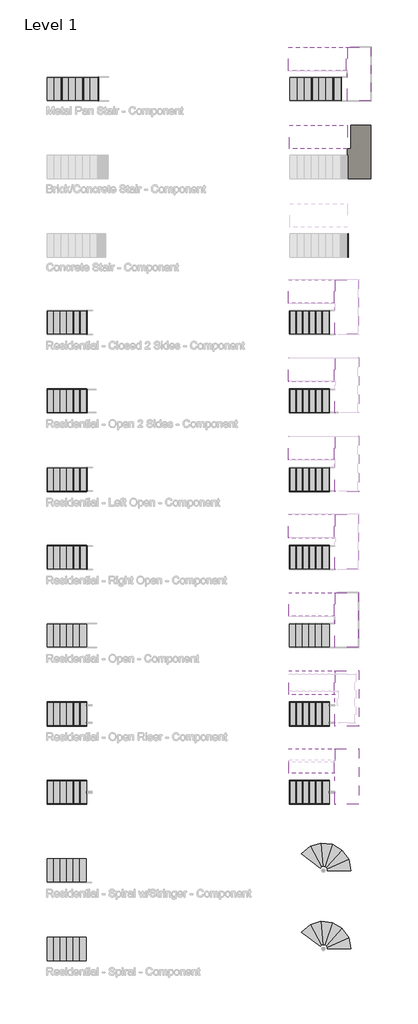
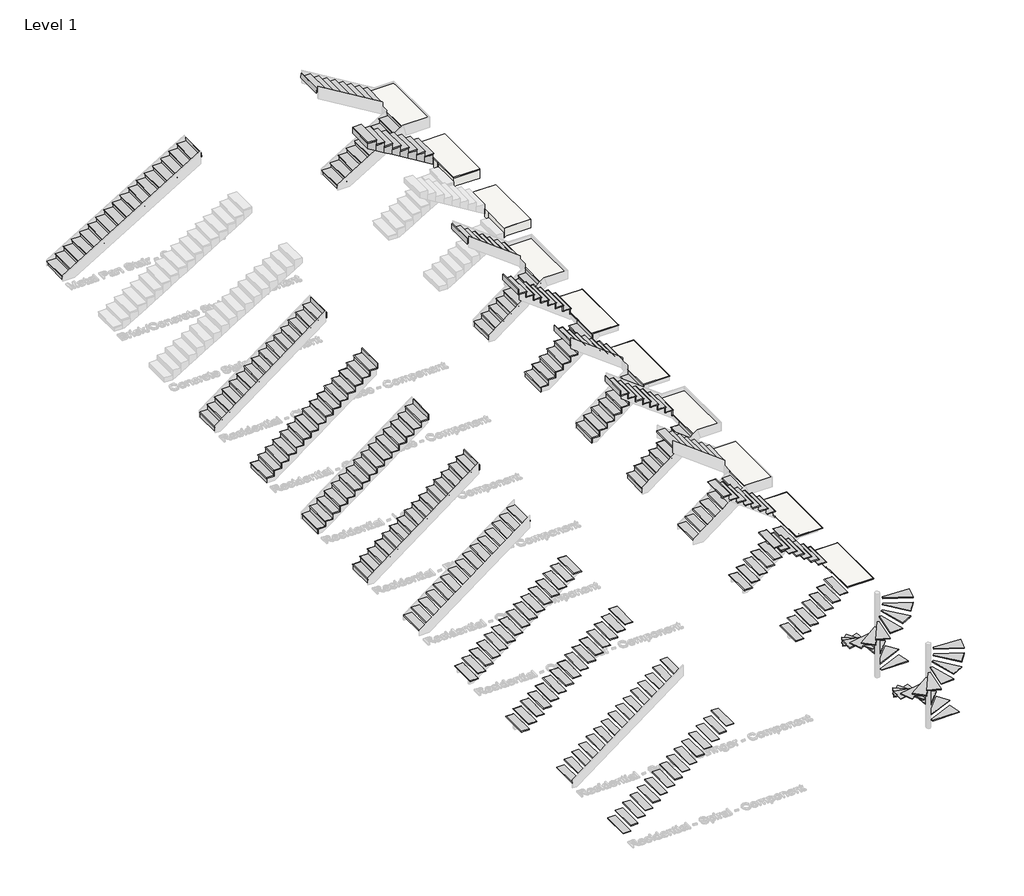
# One storey, part 2 of 15: 29 stair flights, 10 slabs.
"""IFC4 building model written with IfcOpenShell, lengths in millimetres."""

from ifc_helpers import new_model, si_unit, frame, origin, place, context, project, spatial, polyline, outline, extrude, faceted_brep, transform, mapped, element, save
from components import non_monolithic_landing_91d3ffc2, non_monolithic_landing_57681d34, non_monolithic_landing_c2a4e878, non_monolithic_landing_5f024aca, non_monolithic_landing_b907bb08, non_monolithic_landing_c05d15c3, non_monolithic_landing_861eff42, non_monolithic_landing_834f4fe1, stair_flight_dfa91324, stair_flight_35474383, stair_flight_a5da1dd9, stair_flight_ea4a27bd, stair_flight_c2164267, stair_flight_34373fae, stair_flight_3790ce72, stair_flight_e1e404fc, stair_flight_be95155a, stair_flight_f94ab1f9, stair_flight_34b82d96, stair_flight_1cd0306f, stair_flight_2b1a7fe8, stair_flight_ce8c0683, stair_flight_56650358, stair_flight_bbbf5137, stair_flight_2204dae2, stair_flight_d816db76, stair_flight_3500c2e6, stair_flight_d1c61a72, stair_flight_c486b3ba, stair_flight_c9529e75, stair_flight_d73f07cf, stair_flight_a4a1ad23, stair_flight_c29993e0, stair_flight_36799c1e, stair_flight_c3952520, stair_flight_bf0e3606

model = new_model("IFC4")

# Units and contexts
model_context = context("Model", 3, world=origin())
ifc_project = project(units=[si_unit("LENGTHUNIT", "METRE", prefix="MILLI")], contexts=[model_context])

# Site, building, storey
site = spatial("IfcSite", under=ifc_project)
building = spatial("IfcBuilding", under=site)
storey = spatial("IfcBuildingStorey", under=building, Name="Level 1", Elevation=0.0)

# Slabs
placement = place(None, origin())
element("IfcSlab", 1, ObjectType="11 29/32\" Thickness", at=placement, inside=storey, context=model_context, shape_type="SolidModel", body=[
    faceted_brep([(-15521.4481446, 10924.7635042, 1523.20625), (-15521.4481446, 10010.3635042, 1523.20625), (-15446.975887, 10010.3635042, 1523.20625), (-14607.0481446, 10010.3635042, 1523.20625), (-14607.0481446, 12093.1635042, 1523.20625), (-15316.5204022, 12093.1635042, 1523.20625), (-15521.4481446, 12093.1635042, 1523.20625), (-15521.4481446, 11178.7635042, 1523.20625), (-15521.4481446, 10924.7635042, 1220.8032375), (-15521.4481446, 10924.7635042, 1175.6685359), (-15521.4481446, 10010.3635042, 1175.6685359), (-15521.4481446, 10010.3635042, 1353.8729167), (-15446.975887, 10010.3635042, 1220.8032375), (-14607.0481446, 10010.3635042, 1220.8032375), (-14607.0481446, 12093.1635042, 1220.8032375), (-15316.5204022, 12093.1635042, 1220.8032375), (-15521.4481446, 12093.1635042, 1345.0018692), (-15521.4481446, 11178.7635042, 1345.0018692), (-15521.4481446, 11178.7635042, 1220.8032375), (-15316.5204022, 11178.7635042, 1220.8032375), (-15446.975887, 10924.7635042, 1220.8032375)], [[[0, 1, 2, 3, 4, 5, 6, 7]], [[1, 0, 8, 9, 10, 11]], [[1, 11, 10, 12, 13, 3, 2]], [[4, 3, 13, 14]], [[4, 14, 15, 16, 6, 5]], [[7, 6, 16, 17]], [[0, 7, 17, 18, 8]], [[18, 19, 15, 14, 13, 12, 20, 8]], [[19, 18, 17]], [[20, 12, 10, 9]], [[8, 20, 9]], [[15, 19, 17, 16]]]),
    extrude(outline(polyline([(-15521.4481446, 10924.7635042), (-15521.4481446, 11178.7635042), (-15521.4481446, 12093.1635042), (-14607.0481446, 12093.1635042), (-14607.0481446, 10010.3635042), (-15521.4481446, 10010.3635042), (-15521.4481446, 10924.7635042)])), frame((0.0, 0.0, 1523.20625), z_axis=(0.0, 0.0, 1.0), x_axis=(1.0, 0.0, 0.0)), (0.0, 0.0, 1.0), 0.79375),
])
element("IfcSlab", 2, ObjectType="11 29/32\" Thickness (1)", at=placement, inside=storey, context=model_context, shape_type="Brep", body=[
    faceted_brep([(-15521.4481446, 13972.7635042, 1479.55), (-15496.0481446, 13972.7635042, 1479.55), (-15496.0481446, 13058.3635042, 1479.55), (-15421.575887, 13058.3635042, 1479.55), (-14607.0481446, 13058.3635042, 1479.55), (-14607.0481446, 15141.1635042, 1479.55), (-15341.9204022, 15141.1635042, 1479.55), (-15521.4481446, 15141.1635042, 1479.55), (-15546.8481446, 15141.1635042, 1479.55), (-15546.8481446, 14226.7635042, 1479.55), (-15521.4481446, 14226.7635042, 1479.55), (-15521.4481446, 13972.7635042, 1177.1469875), (-15496.0481446, 13972.7635042, 1177.1469875), (-15496.0481446, 13972.7635042, 1310.2166667), (-15496.0481446, 13972.7635042, 1132.0122859), (-15496.0481446, 13058.3635042, 1132.0122859), (-15496.0481446, 13058.3635042, 1310.2166667), (-15421.575887, 13058.3635042, 1177.1469875), (-14607.0481446, 13058.3635042, 1177.1469875), (-14607.0481446, 15141.1635042, 1177.1469875), (-15341.9204022, 15141.1635042, 1177.1469875), (-15521.4481446, 15141.1635042, 1285.9516798), (-15546.8481446, 15141.1635042, 1301.3456192), (-15546.8481446, 14226.7635042, 1301.3456192), (-15521.4481446, 14226.7635042, 1285.9516798), (-15521.4481446, 14226.7635042, 1177.1469875), (-15341.9204022, 14226.7635042, 1177.1469875), (-15421.575887, 13972.7635042, 1177.1469875)], [[[0, 1, 2, 3, 4, 5, 6, 7, 8, 9, 10]], [[1, 0, 11, 12, 13]], [[2, 1, 13, 12, 14, 15, 16]], [[2, 16, 15, 17, 18, 4, 3]], [[5, 4, 18, 19]], [[5, 19, 20, 21, 7, 6]], [[8, 7, 21, 22]], [[9, 8, 22, 23]], [[10, 9, 23, 24]], [[0, 10, 24, 25, 11]], [[25, 26, 20, 19, 18, 17, 27, 12, 11]], [[26, 25, 24]], [[27, 17, 15, 14]], [[12, 27, 14]], [[20, 26, 24, 23, 22, 21]]]),
    faceted_brep([(-14607.0481446, 13058.3635042, 1524.0), (-14607.0481446, 15141.1635042, 1524.0), (-15521.4481446, 15141.1635042, 1524.0), (-15546.8481446, 15141.1635042, 1524.0), (-15546.8481446, 14226.7635042, 1524.0), (-15521.4481446, 14226.7635042, 1524.0), (-15521.4481446, 13058.3635042, 1524.0), (-15496.0481446, 13972.7635042, 1479.55), (-15521.4481446, 13972.7635042, 1479.55), (-15521.4481446, 14226.7635042, 1479.55), (-15546.8481446, 14226.7635042, 1479.55), (-15546.8481446, 15141.1635042, 1479.55), (-15521.4481446, 15141.1635042, 1479.55), (-14607.0481446, 15141.1635042, 1479.55), (-14607.0481446, 13058.3635042, 1479.55), (-15496.0481446, 13058.3635042, 1479.55), (-15521.4481446, 13972.7635042, 1504.95), (-15521.4481446, 13058.3635042, 1504.95)], [[[0, 1, 2, 3, 4, 5, 6]], [[7, 8, 9, 10, 11, 12, 13, 14, 15]], [[8, 7, 16]], [[0, 6, 17, 15, 14]], [[1, 0, 14, 13]], [[2, 1, 13, 12]], [[3, 2, 12, 11]], [[4, 3, 11, 10]], [[5, 4, 10, 9]], [[6, 5, 9, 8, 16, 17]], [[15, 17, 16, 7]]]),
])
non_monolithic_landing_shape = non_monolithic_landing_91d3ffc2(model_context)
element("IfcSlab", 3, ObjectType="Non-Monolithic Landing", at=placement, inside=storey, context=model_context, shape_type="MappedRepresentation", body=[
    mapped(non_monolithic_landing_shape, transform((0.0, 0.0, 0.0), x_axis=(1.0, 0.0, 0.0), y_axis=(0.0, 1.0, 0.0), z_axis=(0.0, 0.0, 1.0))),
])
non_monolithic_landing_2_shape = non_monolithic_landing_57681d34(model_context)
element("IfcSlab", 4, ObjectType="Non-Monolithic Landing", at=placement, inside=storey, context=model_context, shape_type="MappedRepresentation", body=[
    mapped(non_monolithic_landing_2_shape, transform((0.0, 0.0, 0.0), x_axis=(1.0, 0.0, 0.0), y_axis=(0.0, 1.0, 0.0), z_axis=(0.0, 0.0, 1.0))),
])
non_monolithic_landing_3_shape = non_monolithic_landing_c2a4e878(model_context)
element("IfcSlab", 5, ObjectType="Non-Monolithic Landing", at=placement, inside=storey, context=model_context, shape_type="MappedRepresentation", body=[
    mapped(non_monolithic_landing_3_shape, transform((0.0, 0.0, 0.0), x_axis=(1.0, 0.0, 0.0), y_axis=(0.0, 1.0, 0.0), z_axis=(0.0, 0.0, 1.0))),
])
non_monolithic_landing_4_shape = non_monolithic_landing_5f024aca(model_context)
element("IfcSlab", 6, ObjectType="Non-Monolithic Landing", at=placement, inside=storey, context=model_context, shape_type="MappedRepresentation", body=[
    mapped(non_monolithic_landing_4_shape, transform((0.0, 0.0, 0.0), x_axis=(1.0, 0.0, 0.0), y_axis=(0.0, 1.0, 0.0), z_axis=(0.0, 0.0, 1.0))),
])
non_monolithic_landing_5_shape = non_monolithic_landing_b907bb08(model_context)
element("IfcSlab", 7, ObjectType="Non-Monolithic Landing", at=placement, inside=storey, context=model_context, shape_type="MappedRepresentation", body=[
    mapped(non_monolithic_landing_5_shape, transform((0.0, 0.0, 0.0), x_axis=(1.0, 0.0, 0.0), y_axis=(0.0, 1.0, 0.0), z_axis=(0.0, 0.0, 1.0))),
])
non_monolithic_landing_6_shape = non_monolithic_landing_c05d15c3(model_context)
element("IfcSlab", 8, ObjectType="Non-Monolithic Landing", at=placement, inside=storey, context=model_context, shape_type="MappedRepresentation", body=[
    mapped(non_monolithic_landing_6_shape, transform((0.0, 0.0, 0.0), x_axis=(1.0, 0.0, 0.0), y_axis=(0.0, 1.0, 0.0), z_axis=(0.0, 0.0, 1.0))),
])
non_monolithic_landing_7_shape = non_monolithic_landing_861eff42(model_context)
element("IfcSlab", 9, ObjectType="Non-Monolithic Landing", at=placement, inside=storey, context=model_context, shape_type="MappedRepresentation", body=[
    mapped(non_monolithic_landing_7_shape, transform((0.0, 0.0, 0.0), x_axis=(1.0, 0.0, 0.0), y_axis=(0.0, 1.0, 0.0), z_axis=(0.0, 0.0, 1.0))),
])
non_monolithic_landing_8_shape = non_monolithic_landing_834f4fe1(model_context)
element("IfcSlab", 10, ObjectType="Non-Monolithic Landing", at=placement, inside=storey, context=model_context, shape_type="MappedRepresentation", body=[
    mapped(non_monolithic_landing_8_shape, transform((0.0, 0.0, 0.0), x_axis=(1.0, 0.0, 0.0), y_axis=(0.0, 1.0, 0.0), z_axis=(0.0, 0.0, 1.0))),
])

# Stair flights
stair_flight_shape = stair_flight_dfa91324(model_context)
element("IfcStairFlight", 11, ObjectType="Unassigned Steps with 1 1/2\" Tread 1 1/2\" Nosing 1/2\" Riser", at=placement, inside=storey, context=model_context, shape_type="MappedRepresentation", body=[
    mapped(stair_flight_shape, transform((0.0, 0.0, 0.0), x_axis=(1.0, 0.0, 0.0), y_axis=(0.0, 1.0, 0.0), z_axis=(0.0, 0.0, 1.0))),
])
stair_flight_2_shape = stair_flight_35474383(model_context)
element("IfcStairFlight", 12, ObjectType="Unassigned Steps with 1 1/2\" Tread 1 1/2\" Nosing 1/2\" Riser", at=placement, inside=storey, context=model_context, shape_type="MappedRepresentation", body=[
    mapped(stair_flight_2_shape, transform((0.0, 0.0, 0.0), x_axis=(1.0, 0.0, 0.0), y_axis=(0.0, 1.0, 0.0), z_axis=(0.0, 0.0, 1.0))),
])
stair_flight_3_shape = stair_flight_a5da1dd9(model_context)
element("IfcStairFlight", 13, ObjectType="Unassigned Steps with 1 1/2\" Tread 1 1/2\" Nosing 1/2\" Riser", at=placement, inside=storey, context=model_context, shape_type="MappedRepresentation", body=[
    mapped(stair_flight_3_shape, transform((0.0, 0.0, 0.0), x_axis=(1.0, 0.0, 0.0), y_axis=(0.0, 1.0, 0.0), z_axis=(0.0, 0.0, 1.0))),
])
stair_flight_4_shape = stair_flight_ea4a27bd(model_context)
element("IfcStairFlight", 14, ObjectType="Unassigned Steps with 1\" Tread 1\" Nosing 3/4\" Riser", at=placement, inside=storey, context=model_context, shape_type="MappedRepresentation", body=[
    mapped(stair_flight_4_shape, transform((0.0, 0.0, 0.0), x_axis=(1.0, 0.0, 0.0), y_axis=(0.0, 1.0, 0.0), z_axis=(0.0, 0.0, 1.0))),
])
stair_flight_5_shape = stair_flight_c2164267(model_context)
element("IfcStairFlight", 15, ObjectType="Unassigned Steps with 1\" Tread 1\" Nosing 3/4\" Riser", at=placement, inside=storey, context=model_context, shape_type="MappedRepresentation", body=[
    mapped(stair_flight_5_shape, transform((0.0, 0.0, 0.0), x_axis=(1.0, 0.0, 0.0), y_axis=(0.0, 1.0, 0.0), z_axis=(0.0, 0.0, 1.0))),
])
stair_flight_6_shape = stair_flight_34373fae(model_context)
element("IfcStairFlight", 16, ObjectType="Unassigned Steps with 1\" Tread 1\" Nosing 3/4\" Riser", at=placement, inside=storey, context=model_context, shape_type="MappedRepresentation", body=[
    mapped(stair_flight_6_shape, transform((0.0, 0.0, 0.0), x_axis=(1.0, 0.0, 0.0), y_axis=(0.0, 1.0, 0.0), z_axis=(0.0, 0.0, 1.0))),
])
stair_flight_7_shape = stair_flight_3790ce72(model_context)
element("IfcStairFlight", 17, ObjectType="Unassigned Steps with 1\" Tread 1\" Nosing 3/4\" Riser (1)", at=placement, inside=storey, context=model_context, shape_type="MappedRepresentation", body=[
    mapped(stair_flight_7_shape, transform((0.0, 0.0, 0.0), x_axis=(1.0, 0.0, 0.0), y_axis=(0.0, 1.0, 0.0), z_axis=(0.0, 0.0, 1.0))),
])
stair_flight_8_shape = stair_flight_e1e404fc(model_context)
element("IfcStairFlight", 18, ObjectType="Unassigned Steps with 1\" Tread 1\" Nosing 3/4\" Riser (1)", at=placement, inside=storey, context=model_context, shape_type="MappedRepresentation", body=[
    mapped(stair_flight_8_shape, transform((0.0, 0.0, 0.0), x_axis=(1.0, 0.0, 0.0), y_axis=(0.0, 1.0, 0.0), z_axis=(0.0, 0.0, 1.0))),
])
stair_flight_9_shape = stair_flight_be95155a(model_context)
element("IfcStairFlight", 19, ObjectType="Unassigned Steps with 1\" Tread 1\" Nosing 3/4\" Riser (1)", at=placement, inside=storey, context=model_context, shape_type="MappedRepresentation", body=[
    mapped(stair_flight_9_shape, transform((0.0, 0.0, 0.0), x_axis=(1.0, 0.0, 0.0), y_axis=(0.0, 1.0, 0.0), z_axis=(0.0, 0.0, 1.0))),
])
stair_flight_10_shape = stair_flight_f94ab1f9(model_context)
element("IfcStairFlight", 20, ObjectType="Unassigned Steps with 1\" Tread 1\" Nosing 3/4\" Riser (2)", at=placement, inside=storey, context=model_context, shape_type="MappedRepresentation", body=[
    mapped(stair_flight_10_shape, transform((0.0, 0.0, 0.0), x_axis=(1.0, 0.0, 0.0), y_axis=(0.0, 1.0, 0.0), z_axis=(0.0, 0.0, 1.0))),
])
stair_flight_11_shape = stair_flight_34b82d96(model_context)
element("IfcStairFlight", 21, ObjectType="Unassigned Steps with 1\" Tread 1\" Nosing 3/4\" Riser (2)", at=placement, inside=storey, context=model_context, shape_type="MappedRepresentation", body=[
    mapped(stair_flight_11_shape, transform((0.0, 0.0, 0.0), x_axis=(1.0, 0.0, 0.0), y_axis=(0.0, 1.0, 0.0), z_axis=(0.0, 0.0, 1.0))),
])
stair_flight_12_shape = stair_flight_1cd0306f(model_context)
element("IfcStairFlight", 22, ObjectType="Unassigned Steps with 1\" Tread 1\" Nosing 3/4\" Riser (2)", at=placement, inside=storey, context=model_context, shape_type="MappedRepresentation", body=[
    mapped(stair_flight_12_shape, transform((0.0, 0.0, 0.0), x_axis=(1.0, 0.0, 0.0), y_axis=(0.0, 1.0, 0.0), z_axis=(0.0, 0.0, 1.0))),
])
stair_flight_13_shape = stair_flight_2b1a7fe8(model_context)
element("IfcStairFlight", 23, ObjectType="Unassigned Steps with 1\" Tread 1\" Nosing 3/4\" Riser (3)", at=placement, inside=storey, context=model_context, shape_type="MappedRepresentation", body=[
    mapped(stair_flight_13_shape, transform((0.0, 0.0, 0.0), x_axis=(1.0, 0.0, 0.0), y_axis=(0.0, 1.0, 0.0), z_axis=(0.0, 0.0, 1.0))),
])
stair_flight_14_shape = stair_flight_ce8c0683(model_context)
element("IfcStairFlight", 24, ObjectType="Unassigned Steps with 1\" Tread 1\" Nosing 3/4\" Riser (3)", at=placement, inside=storey, context=model_context, shape_type="MappedRepresentation", body=[
    mapped(stair_flight_14_shape, transform((0.0, 0.0, 0.0), x_axis=(1.0, 0.0, 0.0), y_axis=(0.0, 1.0, 0.0), z_axis=(0.0, 0.0, 1.0))),
])
stair_flight_15_shape = stair_flight_56650358(model_context)
element("IfcStairFlight", 25, ObjectType="Unassigned Steps with 1\" Tread 1\" Nosing 3/4\" Riser (3)", at=placement, inside=storey, context=model_context, shape_type="MappedRepresentation", body=[
    mapped(stair_flight_15_shape, transform((0.0, 0.0, 0.0), x_axis=(1.0, 0.0, 0.0), y_axis=(0.0, 1.0, 0.0), z_axis=(0.0, 0.0, 1.0))),
])
stair_flight_16_shape = stair_flight_bbbf5137(model_context)
element("IfcStairFlight", 26, ObjectType="Unassigned Steps with 1 3/4\" Tread 1\" Nosing", at=placement, inside=storey, context=model_context, shape_type="MappedRepresentation", body=[
    mapped(stair_flight_16_shape, transform((0.0, 0.0, 0.0), x_axis=(1.0, 0.0, 0.0), y_axis=(0.0, 1.0, 0.0), z_axis=(0.0, 0.0, 1.0))),
])
stair_flight_17_shape = stair_flight_2204dae2(model_context)
element("IfcStairFlight", 27, ObjectType="Unassigned Steps with 1 3/4\" Tread 1\" Nosing", at=placement, inside=storey, context=model_context, shape_type="MappedRepresentation", body=[
    mapped(stair_flight_17_shape, transform((0.0, 0.0, 0.0), x_axis=(1.0, 0.0, 0.0), y_axis=(0.0, 1.0, 0.0), z_axis=(0.0, 0.0, 1.0))),
])
stair_flight_18_shape = stair_flight_d816db76(model_context)
element("IfcStairFlight", 28, ObjectType="Unassigned Steps with 1 3/4\" Tread 1\" Nosing", at=placement, inside=storey, context=model_context, shape_type="MappedRepresentation", body=[
    mapped(stair_flight_18_shape, transform((0.0, 0.0, 0.0), x_axis=(1.0, 0.0, 0.0), y_axis=(0.0, 1.0, 0.0), z_axis=(0.0, 0.0, 1.0))),
])
stair_flight_19_shape = stair_flight_3500c2e6(model_context)
element("IfcStairFlight", 29, ObjectType="Unassigned Steps with 1\" Tread 1\" Nosing", at=placement, inside=storey, context=model_context, shape_type="MappedRepresentation", body=[
    mapped(stair_flight_19_shape, transform((0.0, 0.0, 0.0), x_axis=(1.0, 0.0, 0.0), y_axis=(0.0, 1.0, 0.0), z_axis=(0.0, 0.0, 1.0))),
])
stair_flight_20_shape = stair_flight_d1c61a72(model_context)
element("IfcStairFlight", 30, ObjectType="Unassigned Steps with 1\" Tread 1\" Nosing", at=placement, inside=storey, context=model_context, shape_type="MappedRepresentation", body=[
    mapped(stair_flight_20_shape, transform((0.0, 0.0, 0.0), x_axis=(1.0, 0.0, 0.0), y_axis=(0.0, 1.0, 0.0), z_axis=(0.0, 0.0, 1.0))),
])
stair_flight_21_shape = stair_flight_c486b3ba(model_context)
element("IfcStairFlight", 31, ObjectType="Unassigned Steps with 1\" Tread 1\" Nosing", at=placement, inside=storey, context=model_context, shape_type="MappedRepresentation", body=[
    mapped(stair_flight_21_shape, transform((0.0, 0.0, 0.0), x_axis=(1.0, 0.0, 0.0), y_axis=(0.0, 1.0, 0.0), z_axis=(0.0, 0.0, 1.0))),
])
stair_flight_22_shape = stair_flight_c9529e75(model_context)
element("IfcStairFlight", 32, ObjectType="Unassigned Steps with 1\" Tread 1\" Nosing", at=placement, inside=storey, context=model_context, shape_type="MappedRepresentation", body=[
    mapped(stair_flight_22_shape, transform((0.0, 0.0, 0.0), x_axis=(1.0, 0.0, 0.0), y_axis=(0.0, 1.0, 0.0), z_axis=(0.0, 0.0, 1.0))),
])
stair_flight_23_shape = stair_flight_d73f07cf(model_context)
element("IfcStairFlight", 33, ObjectType="Unassigned Steps with 1\" Tread 1\" Nosing", at=placement, inside=storey, context=model_context, shape_type="MappedRepresentation", body=[
    mapped(stair_flight_23_shape, transform((0.0, 0.0, 0.0), x_axis=(1.0, 0.0, 0.0), y_axis=(0.0, 1.0, 0.0), z_axis=(0.0, 0.0, 1.0))),
])
stair_flight_24_shape = stair_flight_a4a1ad23(model_context)
element("IfcStairFlight", 34, ObjectType="Unassigned Steps with 1\" Tread 1\" Nosing", at=placement, inside=storey, context=model_context, shape_type="MappedRepresentation", body=[
    mapped(stair_flight_24_shape, transform((0.0, 0.0, 0.0), x_axis=(1.0, 0.0, 0.0), y_axis=(0.0, 1.0, 0.0), z_axis=(0.0, 0.0, 1.0))),
])
stair_flight_25_shape = stair_flight_c29993e0(model_context)
element("IfcStairFlight", 35, ObjectType="Unassigned Steps with 1\" Tread", at=placement, inside=storey, context=model_context, shape_type="MappedRepresentation", body=[
    mapped(stair_flight_25_shape, transform((0.0, 0.0, 0.0), x_axis=(1.0, 0.0, 0.0), y_axis=(0.0, 1.0, 0.0), z_axis=(0.0, 0.0, 1.0))),
])
stair_flight_26_shape = stair_flight_36799c1e(model_context)
element("IfcStairFlight", 36, ObjectType="Unassigned Steps with 1\" Tread", at=placement, inside=storey, context=model_context, shape_type="MappedRepresentation", body=[
    mapped(stair_flight_26_shape, transform((0.0, 0.0, 0.0), x_axis=(1.0, 0.0, 0.0), y_axis=(0.0, 1.0, 0.0), z_axis=(0.0, 0.0, 1.0))),
])
stair_flight_27_shape = stair_flight_c3952520(model_context)
element("IfcStairFlight", 37, ObjectType="Unassigned Steps with 1\" Tread", at=placement, inside=storey, context=model_context, shape_type="MappedRepresentation", body=[
    mapped(stair_flight_27_shape, transform((0.0, 0.0, 0.0), x_axis=(1.0, 0.0, 0.0), y_axis=(0.0, 1.0, 0.0), z_axis=(0.0, 0.0, 1.0))),
])
stair_flight_28_shape = stair_flight_bf0e3606(model_context)
element("IfcStairFlight", 38, ObjectType="Unassigned Steps with 1\" Tread", at=placement, inside=storey, context=model_context, shape_type="MappedRepresentation", body=[
    mapped(stair_flight_28_shape, transform((0.0, 0.0, 0.0), x_axis=(1.0, 0.0, 0.0), y_axis=(0.0, 1.0, 0.0), z_axis=(0.0, 0.0, 1.0))),
])
element("IfcStairFlight", 39, ObjectType="1 3/4\" Tread 1\" Nosing", at=placement, inside=storey, context=model_context, shape_type="SolidModel", body=[
    faceted_brep([(-15826.2481446, 14226.7635042, 1648.8833333), (-15546.8481446, 14226.7635042, 1648.8833333), (-15546.8481446, 15141.1635042, 1648.8833333), (-15826.2481446, 15141.1635042, 1648.8833333), (-15826.2481446, 14226.7635042, 1470.6789526), (-15546.8481446, 14226.7635042, 1301.3456192), (-15546.8481446, 14226.7635042, 1479.55), (-15546.8481446, 15141.1635042, 1301.3456192), (-15546.8481446, 15141.1635042, 1479.55), (-15826.2481446, 15141.1635042, 1470.6789526), (-16105.6481446, 14226.7635042, 1818.2166667), (-15826.2481446, 14226.7635042, 1818.2166667), (-15826.2481446, 15141.1635042, 1818.2166667), (-16105.6481446, 15141.1635042, 1818.2166667), (-16105.6481446, 14226.7635042, 1640.0122859), (-16105.6481446, 15141.1635042, 1640.0122859), (-16385.0481446, 14226.7635042, 1987.55), (-16105.6481446, 14226.7635042, 1987.55), (-16105.6481446, 15141.1635042, 1987.55), (-16385.0481446, 15141.1635042, 1987.55), (-16385.0481446, 14226.7635042, 1809.3456192), (-16385.0481446, 15141.1635042, 1809.3456192), (-16664.4481446, 14226.7635042, 2156.8833333), (-16385.0481446, 14226.7635042, 2156.8833333), (-16385.0481446, 15141.1635042, 2156.8833333), (-16664.4481446, 15141.1635042, 2156.8833333), (-16664.4481446, 14226.7635042, 1978.6789526), (-16664.4481446, 15141.1635042, 1978.6789526), (-16943.8481446, 14226.7635042, 2326.2166667), (-16664.4481446, 14226.7635042, 2326.2166667), (-16664.4481446, 15141.1635042, 2326.2166667), (-16943.8481446, 15141.1635042, 2326.2166667), (-16943.8481446, 14226.7635042, 2148.0122859), (-16943.8481446, 15141.1635042, 2148.0122859), (-17223.2481446, 14226.7635042, 2495.55), (-16943.8481446, 14226.7635042, 2495.55), (-16943.8481446, 15141.1635042, 2495.55), (-17223.2481446, 15141.1635042, 2495.55), (-17223.2481446, 14226.7635042, 2317.3456192), (-17223.2481446, 15141.1635042, 2317.3456192), (-17502.6481446, 14226.7635042, 2664.8833333), (-17223.2481446, 14226.7635042, 2664.8833333), (-17223.2481446, 15141.1635042, 2664.8833333), (-17502.6481446, 15141.1635042, 2664.8833333), (-17502.6481446, 14226.7635042, 2486.6789526), (-17502.6481446, 15141.1635042, 2486.6789526), (-17782.0481446, 14226.7635042, 2834.2166667), (-17502.6481446, 14226.7635042, 2834.2166667), (-17502.6481446, 15141.1635042, 2834.2166667), (-17782.0481446, 15141.1635042, 2834.2166667), (-17782.0481446, 14226.7635042, 2656.0122859), (-17782.0481446, 15141.1635042, 2656.0122859)], [[[0, 1, 2, 3]], [[1, 0, 4, 5, 6]], [[2, 1, 6, 5, 7, 8]], [[3, 2, 8, 7, 9]], [[10, 11, 12, 13]], [[11, 10, 14, 4, 0]], [[12, 11, 0, 3]], [[13, 12, 3, 9, 15]], [[16, 17, 18, 19]], [[17, 16, 20, 14, 10]], [[18, 17, 10, 13]], [[19, 18, 13, 15, 21]], [[22, 23, 24, 25]], [[23, 22, 26, 20, 16]], [[24, 23, 16, 19]], [[25, 24, 19, 21, 27]], [[28, 29, 30, 31]], [[29, 28, 32, 26, 22]], [[30, 29, 22, 25]], [[31, 30, 25, 27, 33]], [[34, 35, 36, 37]], [[35, 34, 38, 32, 28]], [[36, 35, 28, 31]], [[37, 36, 31, 33, 39]], [[40, 41, 42, 43]], [[41, 40, 44, 38, 34]], [[42, 41, 34, 37]], [[43, 42, 37, 39, 45]], [[46, 47, 48, 49]], [[47, 46, 50, 44, 40]], [[48, 47, 40, 43]], [[49, 48, 43, 45, 51]], [[46, 49, 51, 50]], [[5, 4, 14, 20, 26, 32, 38, 44, 50, 51, 45, 39, 33, 27, 21, 15, 9, 7]]]),
    extrude(outline(polyline([(1693.3333333, -15521.4481446), (1693.3333333, -15826.2481446), (1648.8833333, -15826.2481446), (1648.8833333, -15546.8481446), (1674.2833333, -15521.4481446), (1693.3333333, -15521.4481446)])), frame((0.0, 14226.7635042, 0.0), z_axis=(0.0, 1.0, 0.0), x_axis=(0.0, 0.0, 1.0)), (0.0, 0.0, 1.0), 914.4),
    extrude(outline(polyline([(1862.6666667, -15800.8481446), (1862.6666667, -16105.6481446), (1818.2166667, -16105.6481446), (1818.2166667, -15826.2481446), (1843.6166667, -15800.8481446), (1862.6666667, -15800.8481446)])), frame((0.0, 14226.7635042, 0.0), z_axis=(0.0, 1.0, 0.0), x_axis=(0.0, 0.0, 1.0)), (0.0, 0.0, 1.0), 914.4),
    extrude(outline(polyline([(2032.0, -16080.2481446), (2032.0, -16385.0481446), (1987.55, -16385.0481446), (1987.55, -16105.6481446), (2012.95, -16080.2481446), (2032.0, -16080.2481446)])), frame((0.0, 14226.7635042, 0.0), z_axis=(0.0, 1.0, 0.0), x_axis=(0.0, 0.0, 1.0)), (0.0, 0.0, 1.0), 914.4),
    extrude(outline(polyline([(2201.3333333, -16359.6481446), (2201.3333333, -16664.4481446), (2156.8833333, -16664.4481446), (2156.8833333, -16385.0481446), (2182.2833333, -16359.6481446), (2201.3333333, -16359.6481446)])), frame((0.0, 14226.7635042, 0.0), z_axis=(0.0, 1.0, 0.0), x_axis=(0.0, 0.0, 1.0)), (0.0, 0.0, 1.0), 914.4),
    extrude(outline(polyline([(2370.6666667, -16639.0481446), (2370.6666667, -16943.8481446), (2326.2166667, -16943.8481446), (2326.2166667, -16664.4481446), (2351.6166667, -16639.0481446), (2370.6666667, -16639.0481446)])), frame((0.0, 14226.7635042, 0.0), z_axis=(0.0, 1.0, 0.0), x_axis=(0.0, 0.0, 1.0)), (0.0, 0.0, 1.0), 914.4),
    extrude(outline(polyline([(2540.0, -16918.4481446), (2540.0, -17223.2481446), (2495.55, -17223.2481446), (2495.55, -16943.8481446), (2520.95, -16918.4481446), (2540.0, -16918.4481446)])), frame((0.0, 14226.7635042, 0.0), z_axis=(0.0, 1.0, 0.0), x_axis=(0.0, 0.0, 1.0)), (0.0, 0.0, 1.0), 914.4),
    extrude(outline(polyline([(2709.3333333, -17197.8481446), (2709.3333333, -17502.6481446), (2664.8833333, -17502.6481446), (2664.8833333, -17223.2481446), (2690.2833333, -17197.8481446), (2709.3333333, -17197.8481446)])), frame((0.0, 14226.7635042, 0.0), z_axis=(0.0, 1.0, 0.0), x_axis=(0.0, 0.0, 1.0)), (0.0, 0.0, 1.0), 914.4),
    extrude(outline(polyline([(2878.6666667, -17477.2481446), (2878.6666667, -17782.0481446), (2834.2166667, -17782.0481446), (2834.2166667, -17502.6481446), (2859.6166667, -17477.2481446), (2878.6666667, -17477.2481446)])), frame((0.0, 14226.7635042, 0.0), z_axis=(0.0, 1.0, 0.0), x_axis=(0.0, 0.0, 1.0)), (0.0, 0.0, 1.0), 914.4),
])

save(model, "model.ifc")
